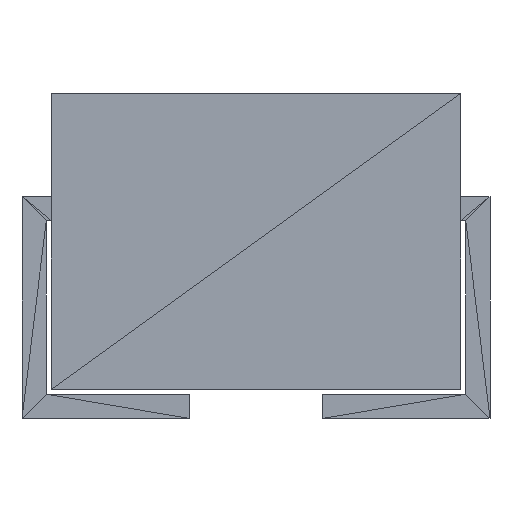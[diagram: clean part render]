
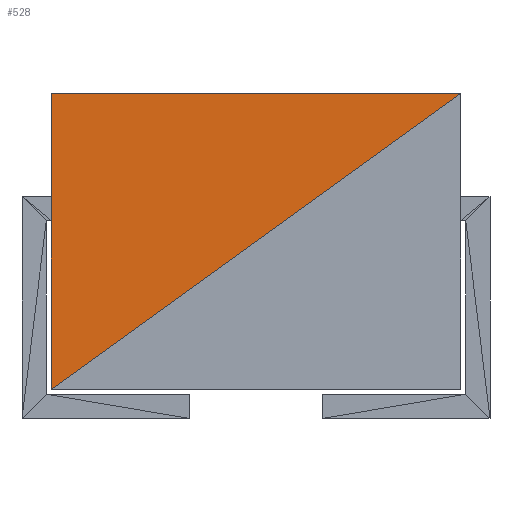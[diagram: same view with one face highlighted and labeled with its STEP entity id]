
A CAD part, front view. The second image highlights one B-rep face of the part: STEP entity #528.
In plain terms, the highlighted planar face has unit normal (0, -1, 0).
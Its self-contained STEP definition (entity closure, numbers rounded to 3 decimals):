
#528=ADVANCED_FACE('',(#529),#555,.F.);
#529=FACE_OUTER_BOUND('',#530,.T.);
#530=EDGE_LOOP('',(#531,#533,#535));
#531=ORIENTED_EDGE('',*,*,#532,.T.);
#532=EDGE_CURVE('',#537,#539,#541,.T.);
#533=ORIENTED_EDGE('',*,*,#534,.T.);
#534=EDGE_CURVE('',#539,#545,#547,.T.);
#535=ORIENTED_EDGE('',*,*,#536,.T.);
#536=EDGE_CURVE('',#545,#537,#551,.T.);
#537=VERTEX_POINT('',#538);
#538=CARTESIAN_POINT('',(-2.146,-2.146,3.404));
#539=VERTEX_POINT('',#540);
#540=CARTESIAN_POINT('',(2.146,-2.146,3.404));
#541=LINE('',#542,#543);
#542=CARTESIAN_POINT('',(-2.146,-2.146,3.404));
#543=VECTOR('',#544,1.0);
#544=DIRECTION('',(-1.0,0.0,0.0));
#545=VERTEX_POINT('',#546);
#546=CARTESIAN_POINT('',(-2.146,-2.146,0.305));
#547=LINE('',#548,#549);
#548=CARTESIAN_POINT('',(2.146,-2.146,3.404));
#549=VECTOR('',#550,1.0);
#550=DIRECTION('',(0.811,0.0,0.585));
#551=LINE('',#552,#553);
#552=CARTESIAN_POINT('',(-2.146,-2.146,0.305));
#553=VECTOR('',#554,1.0);
#554=DIRECTION('',(0.0,0.0,-1.0));
#555=PLANE('',#556);
#556=AXIS2_PLACEMENT_3D('',#557,#558,#559);
#557=CARTESIAN_POINT('',(2.146,-2.146,3.404));
#558=DIRECTION('',(0.0,1.0,0.0));
#559=DIRECTION('',(0.0,0.0,1.0));
